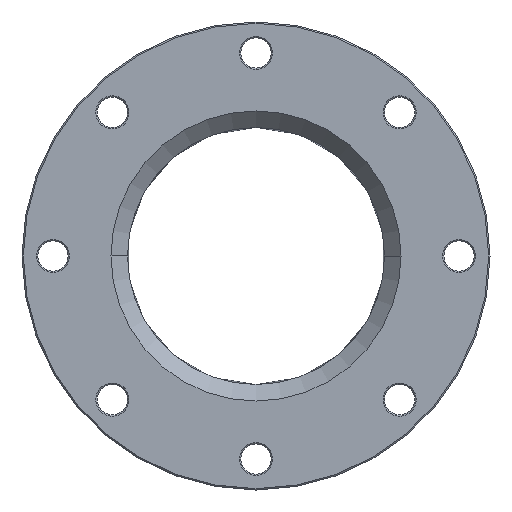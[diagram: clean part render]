
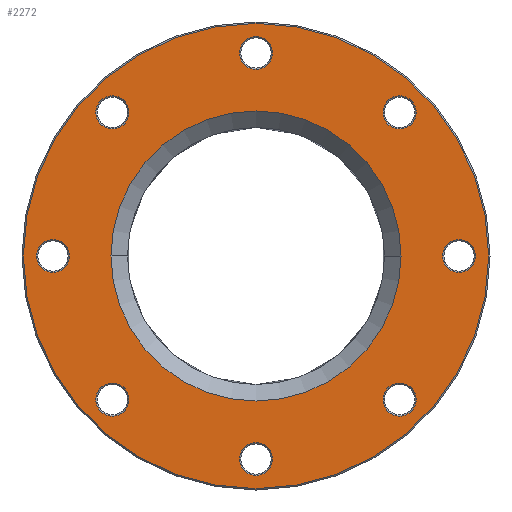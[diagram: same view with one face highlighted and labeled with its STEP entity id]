
A CAD part, front view. The second image highlights one B-rep face of the part: STEP entity #2272.
In plain terms, the highlighted planar face has unit normal (0, -1, 0).
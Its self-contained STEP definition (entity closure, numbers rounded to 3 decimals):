
#646=CARTESIAN_POINT('',(0.,20.069,0.));
#647=DIRECTION('',(0.,1.,0.));
#648=DIRECTION('',(1.,0.,0.));
#649=AXIS2_PLACEMENT_3D('',#646,#647,#648);
#654=CARTESIAN_POINT('',(0.,20.069,0.));
#655=DIRECTION('',(0.,1.,0.));
#656=DIRECTION('',(-1.,0.,0.));
#657=AXIS2_PLACEMENT_3D('',#654,#655,#656);
#662=CARTESIAN_POINT('',(0.,20.069,0.));
#663=DIRECTION('',(0.,-1.,0.));
#664=DIRECTION('',(-1.,0.,0.));
#665=AXIS2_PLACEMENT_3D('',#662,#663,#664);
#670=CARTESIAN_POINT('',(0.,20.069,0.));
#671=DIRECTION('',(0.,-1.,0.));
#672=DIRECTION('',(1.,0.,0.));
#673=AXIS2_PLACEMENT_3D('',#670,#671,#672);
#678=CARTESIAN_POINT('',(-104.298,20.069,104.298));
#679=DIRECTION('',(0.,1.,0.));
#680=DIRECTION('',(-0.707,0.,-0.707));
#681=AXIS2_PLACEMENT_3D('',#678,#679,#680);
#686=CARTESIAN_POINT('',(-104.298,20.069,104.298));
#687=DIRECTION('',(0.,1.,0.));
#688=DIRECTION('',(0.707,0.,0.707));
#689=AXIS2_PLACEMENT_3D('',#686,#687,#688);
#694=CARTESIAN_POINT('',(-147.5,20.069,0.));
#695=DIRECTION('',(0.,1.,0.));
#696=DIRECTION('',(0.,0.,-1.));
#697=AXIS2_PLACEMENT_3D('',#694,#695,#696);
#702=CARTESIAN_POINT('',(-147.5,20.069,0.));
#703=DIRECTION('',(0.,1.,0.));
#704=DIRECTION('',(0.,0.,1.));
#705=AXIS2_PLACEMENT_3D('',#702,#703,#704);
#710=CARTESIAN_POINT('',(-104.298,20.069,-104.298));
#711=DIRECTION('',(0.,1.,0.));
#712=DIRECTION('',(-0.707,0.,0.707));
#713=AXIS2_PLACEMENT_3D('',#710,#711,#712);
#718=CARTESIAN_POINT('',(-104.298,20.069,-104.298));
#719=DIRECTION('',(0.,1.,0.));
#720=DIRECTION('',(0.707,0.,-0.707));
#721=AXIS2_PLACEMENT_3D('',#718,#719,#720);
#726=CARTESIAN_POINT('',(0.,20.069,-147.5));
#727=DIRECTION('',(0.,1.,0.));
#728=DIRECTION('',(-1.,0.,0.));
#729=AXIS2_PLACEMENT_3D('',#726,#727,#728);
#734=CARTESIAN_POINT('',(0.,20.069,-147.5));
#735=DIRECTION('',(0.,1.,0.));
#736=DIRECTION('',(1.,0.,0.));
#737=AXIS2_PLACEMENT_3D('',#734,#735,#736);
#742=CARTESIAN_POINT('',(104.298,20.069,-104.298));
#743=DIRECTION('',(0.,1.,0.));
#744=DIRECTION('',(-0.707,0.,-0.707));
#745=AXIS2_PLACEMENT_3D('',#742,#743,#744);
#750=CARTESIAN_POINT('',(104.298,20.069,-104.298));
#751=DIRECTION('',(0.,1.,0.));
#752=DIRECTION('',(0.707,0.,0.707));
#753=AXIS2_PLACEMENT_3D('',#750,#751,#752);
#758=CARTESIAN_POINT('',(147.5,20.069,0.));
#759=DIRECTION('',(0.,1.,0.));
#760=DIRECTION('',(0.,0.,-1.));
#761=AXIS2_PLACEMENT_3D('',#758,#759,#760);
#766=CARTESIAN_POINT('',(147.5,20.069,0.));
#767=DIRECTION('',(0.,1.,0.));
#768=DIRECTION('',(0.,0.,1.));
#769=AXIS2_PLACEMENT_3D('',#766,#767,#768);
#774=CARTESIAN_POINT('',(104.298,20.069,104.298));
#775=DIRECTION('',(0.,1.,0.));
#776=DIRECTION('',(-0.707,0.,0.707));
#777=AXIS2_PLACEMENT_3D('',#774,#775,#776);
#782=CARTESIAN_POINT('',(104.298,20.069,104.298));
#783=DIRECTION('',(0.,1.,0.));
#784=DIRECTION('',(0.707,0.,-0.707));
#785=AXIS2_PLACEMENT_3D('',#782,#783,#784);
#790=CARTESIAN_POINT('',(0.,20.069,147.5));
#791=DIRECTION('',(0.,1.,0.));
#792=DIRECTION('',(-1.,0.,0.));
#793=AXIS2_PLACEMENT_3D('',#790,#791,#792);
#798=CARTESIAN_POINT('',(0.,20.069,147.5));
#799=DIRECTION('',(0.,1.,0.));
#800=DIRECTION('',(1.,0.,0.));
#801=AXIS2_PLACEMENT_3D('',#798,#799,#800);
#1593=CARTESIAN_POINT('',(105.352,20.069,
0.));
#1594=CARTESIAN_POINT('',(-105.352,20.069,
0.));
#1595=VERTEX_POINT('',#1593);
#1596=VERTEX_POINT('',#1594);
#1673=CARTESIAN_POINT('',(-169.,20.069,0.));
#1674=CARTESIAN_POINT('',(169.,20.069,0.));
#1675=VERTEX_POINT('',#1673);
#1676=VERTEX_POINT('',#1674);
#1681=CARTESIAN_POINT('',(-112.784,20.069,95.813));
#1682=CARTESIAN_POINT('',(-95.813,20.069,112.784));
#1683=VERTEX_POINT('',#1681);
#1684=VERTEX_POINT('',#1682);
#1689=CARTESIAN_POINT('',(-147.5,20.069,-12.));
#1690=CARTESIAN_POINT('',(-147.5,20.069,12.));
#1691=VERTEX_POINT('',#1689);
#1692=VERTEX_POINT('',#1690);
#1697=CARTESIAN_POINT('',(-112.784,20.069,
-95.813));
#1698=CARTESIAN_POINT('',(-95.813,20.069,
-112.784));
#1699=VERTEX_POINT('',#1697);
#1700=VERTEX_POINT('',#1698);
#1705=CARTESIAN_POINT('',(-12.,20.069,-147.5));
#1706=CARTESIAN_POINT('',(12.,20.069,-147.5));
#1707=VERTEX_POINT('',#1705);
#1708=VERTEX_POINT('',#1706);
#1713=CARTESIAN_POINT('',(95.813,20.069,-112.784));
#1714=CARTESIAN_POINT('',(112.784,20.069,-95.813));
#1715=VERTEX_POINT('',#1713);
#1716=VERTEX_POINT('',#1714);
#1721=CARTESIAN_POINT('',(147.5,20.069,-12.));
#1722=CARTESIAN_POINT('',(147.5,20.069,12.));
#1723=VERTEX_POINT('',#1721);
#1724=VERTEX_POINT('',#1722);
#1729=CARTESIAN_POINT('',(95.813,20.069,112.784));
#1730=CARTESIAN_POINT('',(112.784,20.069,95.813));
#1731=VERTEX_POINT('',#1729);
#1732=VERTEX_POINT('',#1730);
#1737=CARTESIAN_POINT('',(-12.,20.069,147.5));
#1738=CARTESIAN_POINT('',(12.,20.069,147.5));
#1739=VERTEX_POINT('',#1737);
#1740=VERTEX_POINT('',#1738);
#2208=CARTESIAN_POINT('',(0.,20.069,0.));
#2209=DIRECTION('',(0.,-1.,0.));
#2210=DIRECTION('',(1.,0.,0.));
#2211=AXIS2_PLACEMENT_3D('',#2208,#2209,#2210);
#2212=PLANE('',#2211);
#2214=ORIENTED_EDGE('',*,*,#2213,.F.);
#2216=ORIENTED_EDGE('',*,*,#2215,.F.);
#2217=EDGE_LOOP('',(#2214,#2216));
#2218=FACE_OUTER_BOUND('',#2217,.F.);
#2219=ORIENTED_EDGE('',*,*,#2198,.F.);
#2221=ORIENTED_EDGE('',*,*,#2220,.F.);
#2222=EDGE_LOOP('',(#2219,#2221));
#2223=FACE_BOUND('',#2222,.F.);
#2225=ORIENTED_EDGE('',*,*,#2224,.F.);
#2227=ORIENTED_EDGE('',*,*,#2226,.F.);
#2228=EDGE_LOOP('',(#2225,#2227));
#2229=FACE_BOUND('',#2228,.F.);
#2231=ORIENTED_EDGE('',*,*,#2230,.F.);
#2233=ORIENTED_EDGE('',*,*,#2232,.F.);
#2234=EDGE_LOOP('',(#2231,#2233));
#2235=FACE_BOUND('',#2234,.F.);
#2237=ORIENTED_EDGE('',*,*,#2236,.F.);
#2239=ORIENTED_EDGE('',*,*,#2238,.F.);
#2240=EDGE_LOOP('',(#2237,#2239));
#2241=FACE_BOUND('',#2240,.F.);
#2243=ORIENTED_EDGE('',*,*,#2242,.F.);
#2245=ORIENTED_EDGE('',*,*,#2244,.F.);
#2246=EDGE_LOOP('',(#2243,#2245));
#2247=FACE_BOUND('',#2246,.F.);
#2249=ORIENTED_EDGE('',*,*,#2248,.F.);
#2251=ORIENTED_EDGE('',*,*,#2250,.F.);
#2252=EDGE_LOOP('',(#2249,#2251));
#2253=FACE_BOUND('',#2252,.F.);
#2255=ORIENTED_EDGE('',*,*,#2254,.F.);
#2257=ORIENTED_EDGE('',*,*,#2256,.F.);
#2258=EDGE_LOOP('',(#2255,#2257));
#2259=FACE_BOUND('',#2258,.F.);
#2261=ORIENTED_EDGE('',*,*,#2260,.F.);
#2263=ORIENTED_EDGE('',*,*,#2262,.F.);
#2264=EDGE_LOOP('',(#2261,#2263));
#2265=FACE_BOUND('',#2264,.F.);
#2267=ORIENTED_EDGE('',*,*,#2266,.F.);
#2269=ORIENTED_EDGE('',*,*,#2268,.F.);
#2270=EDGE_LOOP('',(#2267,#2269));
#2271=FACE_BOUND('',#2270,.F.);
#650=CIRCLE('',#649,105.352);
#658=CIRCLE('',#657,105.352);
#666=CIRCLE('',#665,169.);
#674=CIRCLE('',#673,169.);
#682=CIRCLE('',#681,12.);
#690=CIRCLE('',#689,12.);
#698=CIRCLE('',#697,12.);
#706=CIRCLE('',#705,12.);
#714=CIRCLE('',#713,12.);
#722=CIRCLE('',#721,12.);
#730=CIRCLE('',#729,12.);
#738=CIRCLE('',#737,12.);
#746=CIRCLE('',#745,12.);
#754=CIRCLE('',#753,12.);
#762=CIRCLE('',#761,12.);
#770=CIRCLE('',#769,12.);
#778=CIRCLE('',#777,12.);
#786=CIRCLE('',#785,12.);
#794=CIRCLE('',#793,12.);
#802=CIRCLE('',#801,12.);
#2198=EDGE_CURVE('',#1595,#1596,#650,.T.);
#2213=EDGE_CURVE('',#1675,#1676,#666,.T.);
#2215=EDGE_CURVE('',#1676,#1675,#674,.T.);
#2220=EDGE_CURVE('',#1596,#1595,#658,.T.);
#2224=EDGE_CURVE('',#1683,#1684,#682,.T.);
#2226=EDGE_CURVE('',#1684,#1683,#690,.T.);
#2230=EDGE_CURVE('',#1691,#1692,#698,.T.);
#2232=EDGE_CURVE('',#1692,#1691,#706,.T.);
#2236=EDGE_CURVE('',#1699,#1700,#714,.T.);
#2238=EDGE_CURVE('',#1700,#1699,#722,.T.);
#2242=EDGE_CURVE('',#1707,#1708,#730,.T.);
#2244=EDGE_CURVE('',#1708,#1707,#738,.T.);
#2248=EDGE_CURVE('',#1715,#1716,#746,.T.);
#2250=EDGE_CURVE('',#1716,#1715,#754,.T.);
#2254=EDGE_CURVE('',#1723,#1724,#762,.T.);
#2256=EDGE_CURVE('',#1724,#1723,#770,.T.);
#2260=EDGE_CURVE('',#1731,#1732,#778,.T.);
#2262=EDGE_CURVE('',#1732,#1731,#786,.T.);
#2266=EDGE_CURVE('',#1739,#1740,#794,.T.);
#2268=EDGE_CURVE('',#1740,#1739,#802,.T.);
#2272=ADVANCED_FACE('',(#2218,#2223,#2229,#2235,#2241,#2247,#2253,#2259,#2265,
#2271),#2212,.T.);
